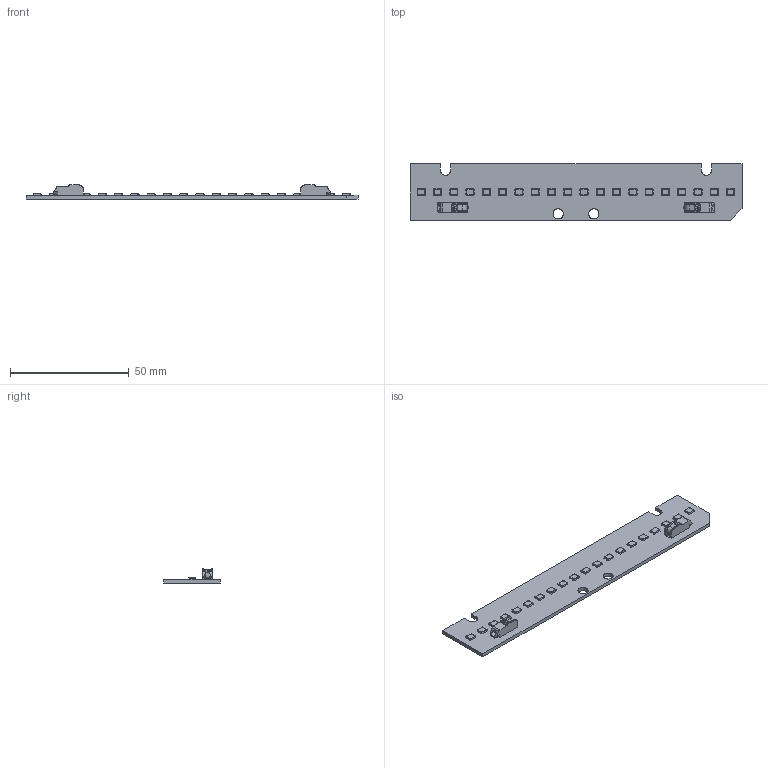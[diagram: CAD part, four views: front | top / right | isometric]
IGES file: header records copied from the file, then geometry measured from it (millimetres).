
Start section: SolidWorks IGES file using analytic representation for surfaces
Global section: file name: C:\Users\vuorinen_kari\Desktop\prj\LED_kosketussuojaus\led_module LX142.IGS; native system: SolidWorks 2014; preprocessor: SolidWorks 2014; author: vuorinen_kari; date: 171020.132433; units: millimetre
Bounding box: 140 x 24 x 5.95 mm (x, y, z)
Surface area: 8340.4 mm2 (no closed solid volume)
Topology: 0 solids, 0 shells, 1317 faces, 9524 edges, 9524 vertices
Faces by surface type: bspline 893, revolution 424
